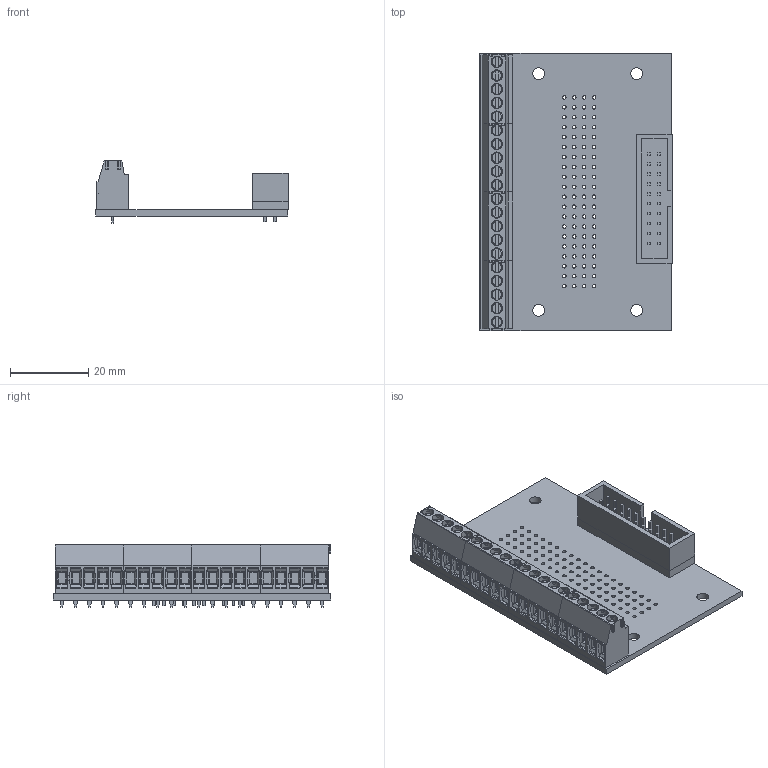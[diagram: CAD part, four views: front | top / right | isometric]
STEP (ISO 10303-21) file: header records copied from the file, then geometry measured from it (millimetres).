
FILE_DESCRIPTION(('Open CASCADE Model'),'2;1');
FILE_NAME('Open CASCADE Shape Model','2016-05-19T13:35:25',('Author'),( 'Open CASCADE'),'Open CASCADE STEP processor 6.8','Open CASCADE 6.8' ,'Unknown');
FILE_SCHEMA(('AUTOMOTIVE_DESIGN { 1 0 10303 214 1 1 1 1 }'));
Length unit declared in the file: millimetre
Products named in the file (14): PCB; Board; K4; mts05008; K3; K2; K1; CON1; 635131768; Extruded; 747576000; 747576136
Assembly tree (35 placements, depth 4):
  PCB
    Board
    K4
      mts05008
    K3
      mts05008
    K2
      mts05008
    K1
      mts05008
    CON1
      635131768  x20
        Extruded
      747576000
        Extruded
      747576136
        Extruded
Bounding box: 49.15 x 71 x 16.1 mm (x, y, z)
Volume: 12860.5 mm3; surface area: 15499.5 mm2
Topology: 27 solids, 27 shells, 1706 faces, 4280 edges, 2800 vertices
Faces by surface type: plane 910, cylinder 676, torus 80, cone 40
Full cylindrical faces by diameter (mm): 0.9 x80, 1 x20, 1.1 x20, 3 x4
Entity records: 61168 total; most frequent: CARTESIAN_POINT 34992, DIRECTION 4262, ORIENTED_EDGE 2692, PCURVE 2692, DEFINITIONAL_REPRESENTATION 2692, LINE 1988, VECTOR 1988, EDGE_CURVE 1346
